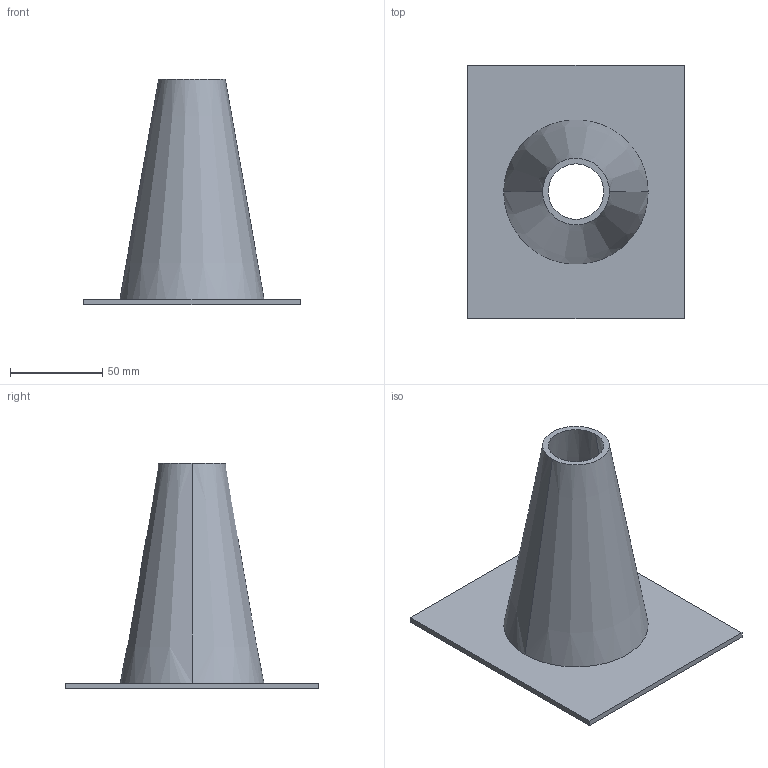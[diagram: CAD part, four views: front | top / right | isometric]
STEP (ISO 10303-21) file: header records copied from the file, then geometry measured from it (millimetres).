
FILE_DESCRIPTION(('CATIA V5 STEP Exchange'),'2;1');
FILE_NAME('C:\_Andres\UNIVERSIDAD\IQS\ASIGNATURAS\DAO\EXF\EXF-15161c\1original\Vallsmadella_Quintanilla_Ej08-ensambla_v27.stp','2016-03-04T21:37:20+00:00',('none'),('none'),'CATIA Version 5 Release 20 SP 1 (IN-10)','CATIA V5 STEP AP203','none');
FILE_SCHEMA(('CONFIG_CONTROL_DESIGN'));
Length unit declared in the file: millimetre
Products named in the file (1): Vallsmadella_Quintanilla_Ej08-ensambla_v27
Bounding box: 117 x 137 x 122 mm (x, y, z)
Volume: 97234.7 mm3; surface area: 66639.2 mm2
Topology: 1 solids, 1 shells, 11 faces, 24 edges, 16 vertices
Faces by surface type: plane 7, cone 4
Entity records: 414 total; most frequent: CARTESIAN_POINT 127, ORIENTED_EDGE 48, DIRECTION 44, EDGE_CURVE 24, AXIS2_PLACEMENT_3D 17, VECTOR 16, LINE 16, VERTEX_POINT 16
